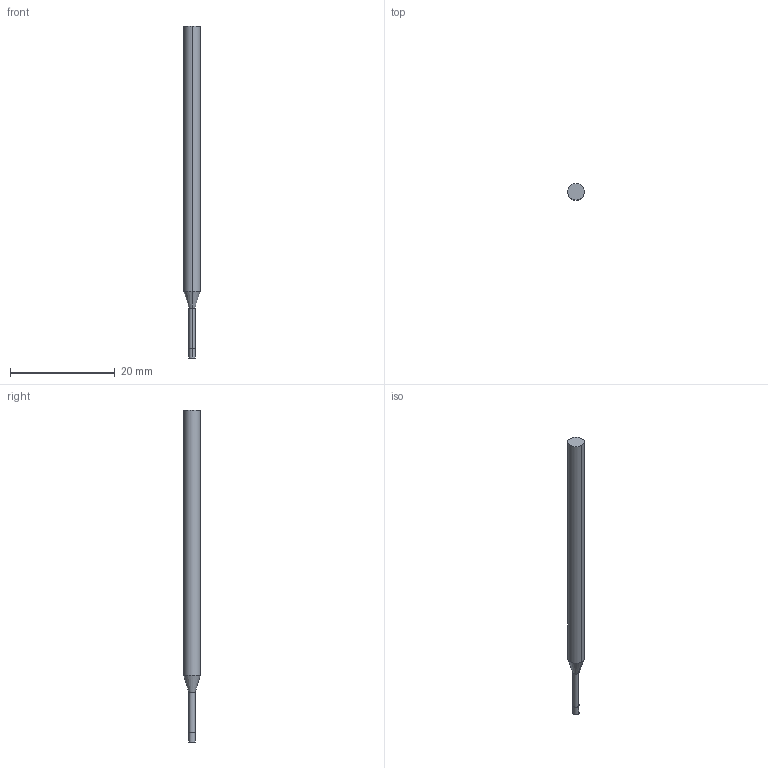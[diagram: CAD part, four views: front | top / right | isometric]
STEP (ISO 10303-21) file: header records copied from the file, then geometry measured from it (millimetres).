
FILE_DESCRIPTION((' '),'2;1');
FILE_NAME( '3MVS0468N8AH.stp', '2026-01-21T19:07:18', (' '), ('--- Datakit www.datakit.com---'), ' Datakit CrossCadWare V2025.4 Sep 19 2025', 'Mastercam 2027', ' ');
FILE_SCHEMA(('AUTOMOTIVE_DESIGN { 1 0 10303 214 1 1 1 1 }'));
Length unit declared in the file: inch
Products named in the file (1): 3MVS0468N8AH
Bounding box: 3.17 x 3.17 x 63.5 mm (x, y, z)
Volume: 425.2 mm3; surface area: 573.9 mm2
Topology: 1 solids, 1 shells, 10 faces, 18 edges, 10 vertices
Faces by surface type: cylinder 6, plane 2, cone 2
Entity records: 323 total; most frequent: DIRECTION 58, CARTESIAN_POINT 43, ORIENTED_EDGE 36, AXIS2_PLACEMENT_3D 25, EDGE_CURVE 18, VERTEX_POINT 10, CIRCLE 10, EDGE_LOOP 10
